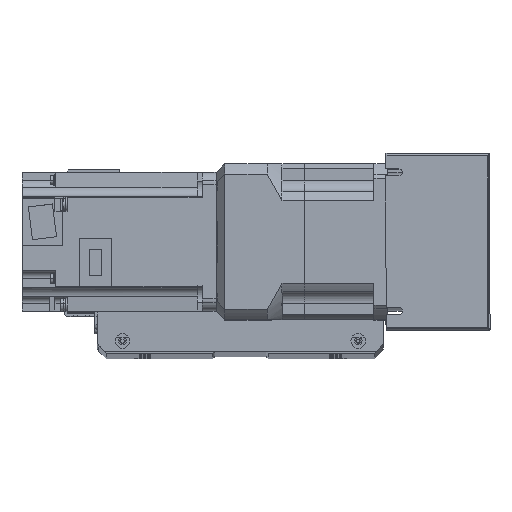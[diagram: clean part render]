
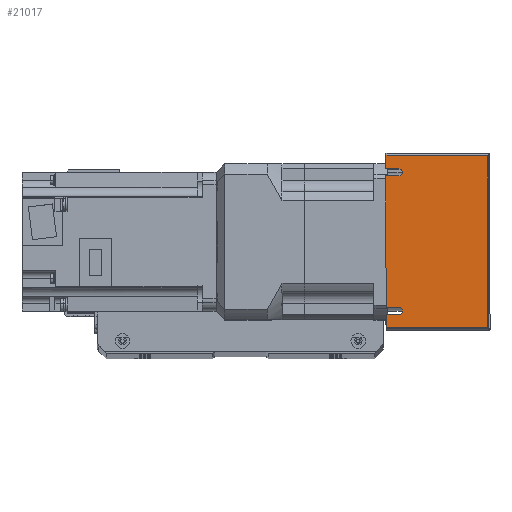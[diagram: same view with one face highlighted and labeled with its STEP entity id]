
A CAD part, top view. The second image highlights one B-rep face of the part: STEP entity #21017.
In plain terms, the highlighted planar face has unit normal (0, 0, 1) as drawn and (-1, 0, 0) by its records, which use the part's own axes.
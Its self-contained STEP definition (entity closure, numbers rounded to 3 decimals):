
#562=PLANE('',#22897);
#1650=LINE('',#33394,#3310);
#1656=LINE('',#33408,#3316);
#1668=LINE('',#33435,#3328);
#1678=LINE('',#33457,#3338);
#1686=LINE('',#33476,#3346);
#1687=LINE('',#33479,#3347);
#1688=LINE('',#33481,#3348);
#1689=LINE('',#33483,#3349);
#1690=LINE('',#33485,#3350);
#1691=LINE('',#33486,#3351);
#3310=VECTOR('',#27183,10.);
#3316=VECTOR('',#27193,10.);
#3328=VECTOR('',#27211,10.);
#3338=VECTOR('',#27225,10.);
#3346=VECTOR('',#27247,10.);
#3347=VECTOR('',#27250,10.);
#3348=VECTOR('',#27251,10.);
#3349=VECTOR('',#27252,10.);
#3350=VECTOR('',#27253,10.);
#3351=VECTOR('',#27254,10.);
#5396=FACE_OUTER_BOUND('',#6888,.T.);
#6888=EDGE_LOOP('',(#16360,#16361,#16362,#16363,#16364,#16365,#16366,#16367,
#16368,#16369,#16370,#16371));
#8346=CIRCLE('',#22893,2.);
#8349=CIRCLE('',#22898,2.);
#9803=VERTEX_POINT('',#33391);
#9804=VERTEX_POINT('',#33393);
#9809=VERTEX_POINT('',#33406);
#9810=VERTEX_POINT('',#33407);
#9821=VERTEX_POINT('',#33433);
#9822=VERTEX_POINT('',#33434);
#9831=VERTEX_POINT('',#33454);
#9832=VERTEX_POINT('',#33456);
#9837=VERTEX_POINT('',#33478);
#9838=VERTEX_POINT('',#33480);
#9839=VERTEX_POINT('',#33482);
#9840=VERTEX_POINT('',#33484);
#12175=EDGE_CURVE('',#9803,#9804,#1650,.T.);
#12181=EDGE_CURVE('',#9809,#9810,#1656,.T.);
#12193=EDGE_CURVE('',#9821,#9822,#1668,.T.);
#12203=EDGE_CURVE('',#9831,#9832,#1678,.T.);
#12206=EDGE_CURVE('',#9810,#9803,#8346,.T.);
#12215=EDGE_CURVE('',#9809,#9832,#1686,.T.);
#12216=EDGE_CURVE('',#9822,#9831,#8349,.T.);
#12217=EDGE_CURVE('',#9821,#9837,#1687,.T.);
#12218=EDGE_CURVE('',#9837,#9838,#1688,.T.);
#12219=EDGE_CURVE('',#9838,#9839,#1689,.T.);
#12220=EDGE_CURVE('',#9839,#9840,#1690,.T.);
#12221=EDGE_CURVE('',#9840,#9804,#1691,.T.);
#16360=ORIENTED_EDGE('',*,*,#12175,.F.);
#16361=ORIENTED_EDGE('',*,*,#12206,.F.);
#16362=ORIENTED_EDGE('',*,*,#12181,.F.);
#16363=ORIENTED_EDGE('',*,*,#12215,.T.);
#16364=ORIENTED_EDGE('',*,*,#12203,.F.);
#16365=ORIENTED_EDGE('',*,*,#12216,.F.);
#16366=ORIENTED_EDGE('',*,*,#12193,.F.);
#16367=ORIENTED_EDGE('',*,*,#12217,.T.);
#16368=ORIENTED_EDGE('',*,*,#12218,.T.);
#16369=ORIENTED_EDGE('',*,*,#12219,.T.);
#16370=ORIENTED_EDGE('',*,*,#12220,.T.);
#16371=ORIENTED_EDGE('',*,*,#12221,.T.);
#21017=ADVANCED_FACE('',(#5396),#562,.F.);
#22893=AXIS2_PLACEMENT_3D('',#33461,#27231,#27232);
#22897=AXIS2_PLACEMENT_3D('',#33475,#27245,#27246);
#22898=AXIS2_PLACEMENT_3D('',#33477,#27248,#27249);
#27183=DIRECTION('',(0.,0.,-1.));
#27193=DIRECTION('',(0.,0.,1.));
#27211=DIRECTION('',(0.,0.,1.));
#27225=DIRECTION('',(0.,0.,-1.));
#27231=DIRECTION('center_axis',(-1.,0.,0.));
#27232=DIRECTION('ref_axis',(0.,0.,1.));
#27245=DIRECTION('center_axis',(1.,0.,0.));
#27246=DIRECTION('ref_axis',(0.,-1.,0.));
#27247=DIRECTION('',(0.,-1.,0.));
#27248=DIRECTION('center_axis',(-1.,0.,0.));
#27249=DIRECTION('ref_axis',(0.,0.,1.));
#27250=DIRECTION('',(0.,-1.,0.));
#27251=DIRECTION('',(0.,0.,1.));
#27252=DIRECTION('',(0.,1.,0.));
#27253=DIRECTION('',(0.,0.,-1.));
#27254=DIRECTION('',(0.,-1.,0.));
#33391=CARTESIAN_POINT('',(-120.5,42.,-22.5));
#33393=CARTESIAN_POINT('',(-120.5,42.,-30.));
#33394=CARTESIAN_POINT('',(-120.5,42.,-16.304));
#33406=CARTESIAN_POINT('',(-120.5,38.,-30.));
#33407=CARTESIAN_POINT('',(-120.5,38.,-22.5));
#33408=CARTESIAN_POINT('',(-120.5,38.,-11.25));
#33433=CARTESIAN_POINT('',(-120.5,-42.,-30.));
#33434=CARTESIAN_POINT('',(-120.5,-42.,-22.5));
#33435=CARTESIAN_POINT('',(-120.5,-42.,-11.25));
#33454=CARTESIAN_POINT('',(-120.5,-38.,-22.5));
#33456=CARTESIAN_POINT('',(-120.5,-38.,-30.));
#33457=CARTESIAN_POINT('',(-120.5,-38.,-16.169));
#33461=CARTESIAN_POINT('Origin',(-120.5,40.,-22.5));
#33475=CARTESIAN_POINT('Origin',(-120.5,51.,0.));
#33476=CARTESIAN_POINT('',(-120.5,-51.,-30.));
#33477=CARTESIAN_POINT('Origin',(-120.5,-40.,-22.5));
#33478=CARTESIAN_POINT('',(-120.5,-50.,-30.));
#33479=CARTESIAN_POINT('',(-120.5,-51.,-30.));
#33480=CARTESIAN_POINT('',(-120.5,-50.,29.));
#33481=CARTESIAN_POINT('',(-120.5,-50.,0.));
#33482=CARTESIAN_POINT('',(-120.5,50.,29.));
#33483=CARTESIAN_POINT('',(-120.5,25.5,29.));
#33484=CARTESIAN_POINT('',(-120.5,50.,-30.));
#33485=CARTESIAN_POINT('',(-120.5,50.,0.));
#33486=CARTESIAN_POINT('',(-120.5,-51.,-30.));
